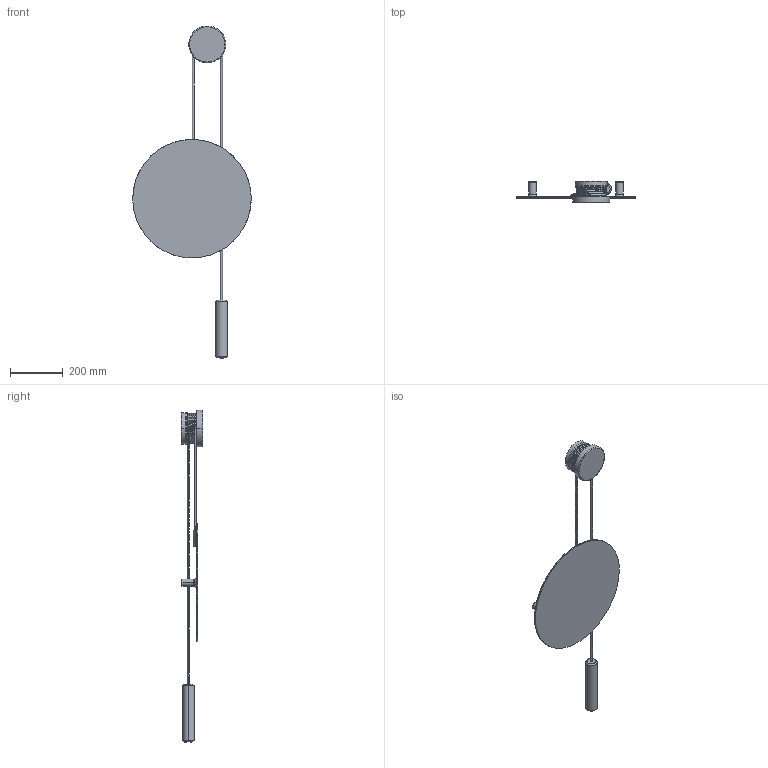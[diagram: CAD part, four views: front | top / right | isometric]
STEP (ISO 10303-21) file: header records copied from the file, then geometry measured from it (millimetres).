
FILE_DESCRIPTION(/* description */ (''),/* implementation_level */ '2;1');
FILE_NAME(/* name */ 'Rise & Shine',/* time_stamp */ '2016-11-17T17:11:18+01:00',/* author */ (''),/* organization */ (''),/* preprocessor_version */ 'ST-DEVELOPER v15',/* originating_system */ '',/* authorisation */ '');
FILE_SCHEMA (('AUTOMOTIVE_DESIGN'));
Length unit declared in the file: millimetre
Products named in the file (1): Document
Bounding box: 450 x 82.5 x 1260.97 mm (x, y, z)
Volume: 1366119.2 mm3; surface area: 896620.4 mm2
Topology: 5 solids, 24 shells, 138 faces, 315 edges, 203 vertices
Faces by surface type: bspline 106, plane 32
Entity records: 7948 total; most frequent: CARTESIAN_POINT 5969, ORIENTED_EDGE 555, EDGE_CURVE 306, VERTEX_POINT 192, EDGE_LOOP 161, ADVANCED_FACE 138, FACE_OUTER_BOUND 138, B_SPLINE_CURVE_WITH_KNOTS 49
